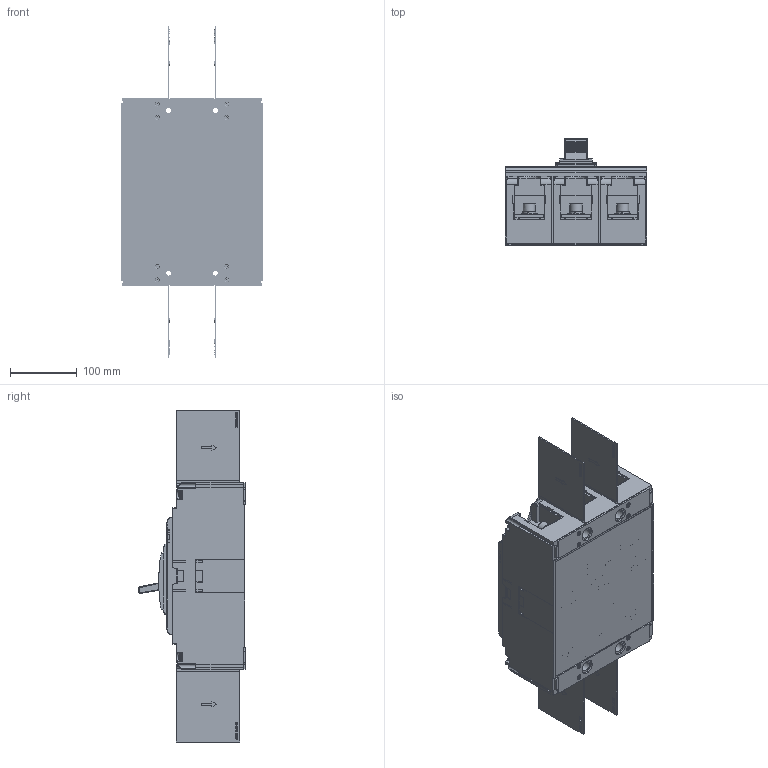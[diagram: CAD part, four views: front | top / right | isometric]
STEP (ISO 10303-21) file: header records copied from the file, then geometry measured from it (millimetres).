
FILE_DESCRIPTION((''),'2;1');
FILE_NAME('2TZD_256_6064_SW0001','2023-12-14T15:58:46',('zhenghaojing'),(''),'CREO PARAMETRIC BY PTC INC, 2020354','CREO PARAMETRIC BY PTC INC, 2020354','');
FILE_SCHEMA(('CONFIG_CONTROL_DESIGN'));
Products named in the file (1): 2TZD_256_6064_SW0001
Bounding box: 212 x 160.59 x 497 mm (x, y, z)
Volume: 2593417.8 mm3; surface area: 988574.2 mm2
Topology: 7 solids, 7 shells, 7720 faces, 20815 edges, 13360 vertices
Faces by surface type: plane 5603, cylinder 1482, sphere 182, torus 154, bspline 142, cone 121, extrusion 36
Entity records: 254263 total; most frequent: CARTESIAN_POINT 59196, ORIENTED_EDGE 41606, DIRECTION 38910, EDGE_CURVE 20803, VECTOR 16430, LINE 16394, VERTEX_POINT 13361, AXIS2_PLACEMENT_3D 11240
